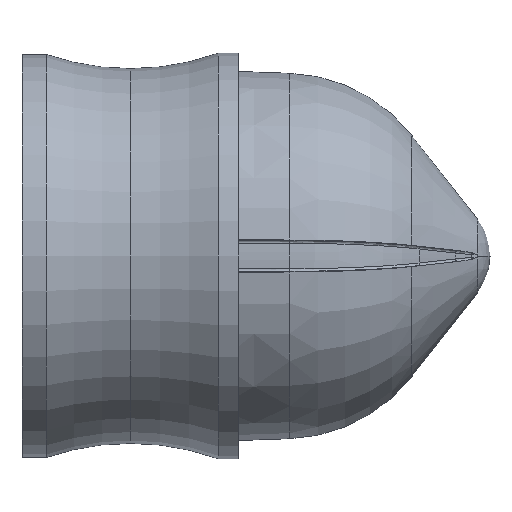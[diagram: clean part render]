
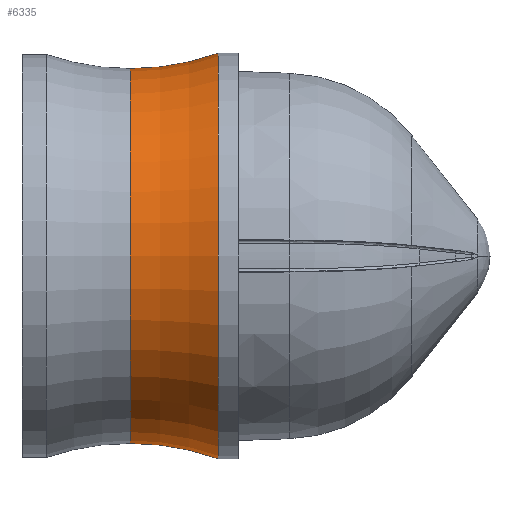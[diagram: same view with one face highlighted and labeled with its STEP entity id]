
A CAD part, left-side view. The second image highlights one B-rep face of the part: STEP entity #6335.
In plain terms, the highlighted toroidal (fillet/blend) face has major radius 14.027 mm and minor radius 8.128 mm.
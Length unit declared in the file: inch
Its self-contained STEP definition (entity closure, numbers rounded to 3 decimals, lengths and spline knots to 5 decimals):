
#499 = CARTESIAN_POINT ( 'NONE',  ( 0., 0.16362, 0. ) ) ;
#523 = CIRCLE ( 'NONE', #8900, 0.32 ) ;
#664 = DIRECTION ( 'NONE',  ( 0., 1., 0. ) ) ;
#682 = DIRECTION ( 'NONE',  ( -1., 0., 0. ) ) ;
#1083 = AXIS2_PLACEMENT_3D ( 'NONE', #9679, #3239, #8110 ) ;
#1267 = EDGE_CURVE ( 'NONE', #1316, #2048, #7340, .T. ) ;
#1316 = VERTEX_POINT ( 'NONE', #6960 ) ;
#1381 = EDGE_CURVE ( 'NONE', #9731, #5682, #6656, .T. ) ;
#2048 = VERTEX_POINT ( 'NONE', #3041 ) ;
#2199 = AXIS2_PLACEMENT_3D ( 'NONE', #499, #664, #5623 ) ;
#2400 = EDGE_CURVE ( 'NONE', #9731, #1316, #4786, .T. ) ;
#2549 = AXIS2_PLACEMENT_3D ( 'NONE', #6855, #2783, #6055 ) ;
#2783 = DIRECTION ( 'NONE',  ( 0., 1., 0. ) ) ;
#3041 = CARTESIAN_POINT ( 'NONE',  ( 0., 0.055, 0.25125 ) ) ;
#3239 = DIRECTION ( 'NONE',  ( 0., 1., 0. ) ) ;
#3727 = EDGE_CURVE ( 'NONE', #5682, #2048, #523, .T. ) ;
#3934 = DIRECTION ( 'NONE',  ( 0., 0., 1. ) ) ;
#4786 = CIRCLE ( 'NONE', #8183, 0.32 ) ;
#4853 = CARTESIAN_POINT ( 'NONE',  ( 0., 0.16362, -0.55225 ) ) ;
#5277 = ORIENTED_EDGE ( 'NONE', *, *, #1267, .T. ) ;
#5600 = DIRECTION ( 'NONE',  ( 1., 0., 0. ) ) ;
#5623 = DIRECTION ( 'NONE',  ( 0., 0., 1. ) ) ;
#5666 = EDGE_LOOP ( 'NONE', ( #9883, #6505, #5277, #7930 ) ) ;
#5682 = VERTEX_POINT ( 'NONE', #9751 ) ;
#5703 = FACE_OUTER_BOUND ( 'NONE', #5666, .T. ) ;
#6055 = DIRECTION ( 'NONE',  ( 0., 0., 1. ) ) ;
#6335 = ADVANCED_FACE ( 'NONE', ( #5703 ), #8257, .F. ) ;
#6505 = ORIENTED_EDGE ( 'NONE', *, *, #2400, .T. ) ;
#6656 = CIRCLE ( 'NONE', #2199, 0.23225 ) ;
#6855 = CARTESIAN_POINT ( 'NONE',  ( 0., 0.055, 0. ) ) ;
#6960 = CARTESIAN_POINT ( 'NONE',  ( 0., 0.055, -0.25125 ) ) ;
#7340 = CIRCLE ( 'NONE', #2549, 0.25125 ) ;
#7930 = ORIENTED_EDGE ( 'NONE', *, *, #3727, .F. ) ;
#7998 = CARTESIAN_POINT ( 'NONE',  ( 0., 0.16362, 0.55225 ) ) ;
#8110 = DIRECTION ( 'NONE',  ( 0., 0., 1. ) ) ;
#8116 = DIRECTION ( 'NONE',  ( 0., 0., -1. ) ) ;
#8183 = AXIS2_PLACEMENT_3D ( 'NONE', #4853, #5600, #8116 ) ;
#8257 = TOROIDAL_SURFACE ( 'NONE', #1083, 0.55225, 0.32 ) ;
#8900 = AXIS2_PLACEMENT_3D ( 'NONE', #7998, #682, #3934 ) ;
#9679 = CARTESIAN_POINT ( 'NONE',  ( 0., 0.16362, 0. ) ) ;
#9731 = VERTEX_POINT ( 'NONE', #9960 ) ;
#9751 = CARTESIAN_POINT ( 'NONE',  ( 0., 0.16362, 0.23225 ) ) ;
#9883 = ORIENTED_EDGE ( 'NONE', *, *, #1381, .F. ) ;
#9960 = CARTESIAN_POINT ( 'NONE',  ( 0., 0.16362, -0.23225 ) ) ;
